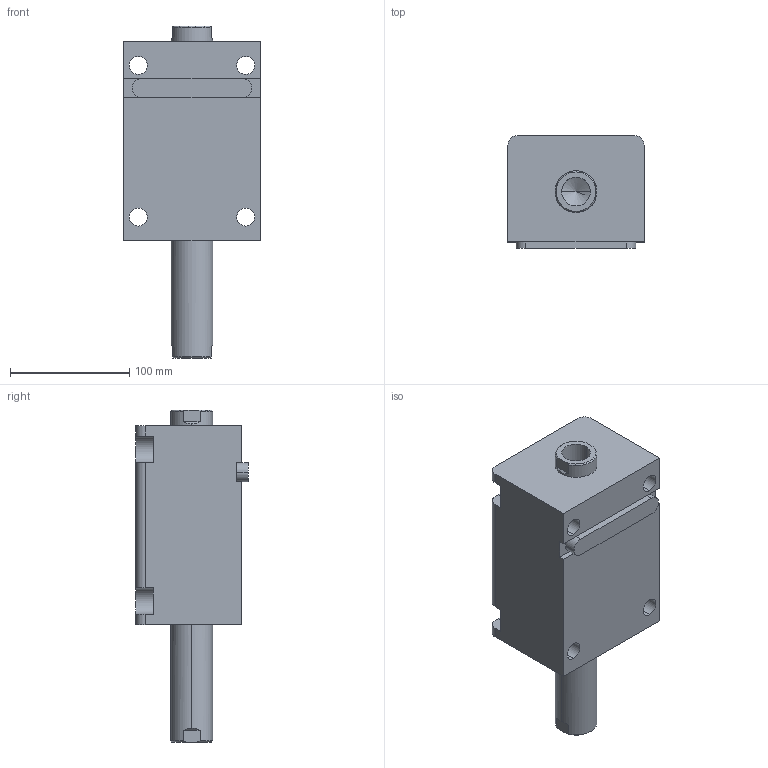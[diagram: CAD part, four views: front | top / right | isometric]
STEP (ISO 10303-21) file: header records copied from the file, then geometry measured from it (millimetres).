
FILE_DESCRIPTION (( 'STEP AP203' ), '1' );
FILE_NAME ('HTB-LW63-85N.STEP', '2019-10-09T08:29:06', ( '微软用户' ), ( '微软中国' ), 'SwSTEP 2.0', 'SolidWorks 2012', '' );
FILE_SCHEMA (( 'CONFIG_CONTROL_DESIGN' ));
Length unit declared in the file: millimetre
Products named in the file (4): HTB-LW63-85N; HTB-LA63-瑩; HTB-LW63-85N活塞杆; HTB-LW63-85掛极
Assembly tree (3 placements, depth 2):
  HTB-LW63-85N
    HTB-LW63-85掛极
    HTB-LW63-85N活塞杆
    HTB-LA63-瑩
Bounding box: 114 x 94.5 x 278 mm (x, y, z)
Volume: 1502361.6 mm3; surface area: 182870.4 mm2
Topology: 3 solids, 3 shells, 101 faces, 253 edges, 164 vertices
Faces by surface type: plane 44, cylinder 41, cone 12, torus 4
Entity records: 3467 total; most frequent: CARTESIAN_POINT 576, DIRECTION 549, ORIENTED_EDGE 498, EDGE_CURVE 249, AXIS2_PLACEMENT_3D 209, VERTEX_POINT 164, LINE 131, VECTOR 131
